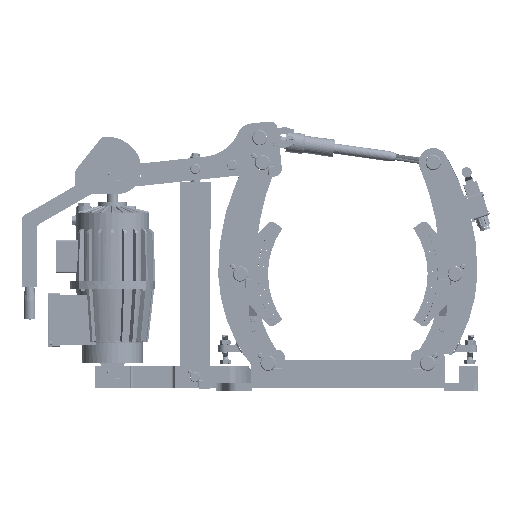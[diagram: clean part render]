
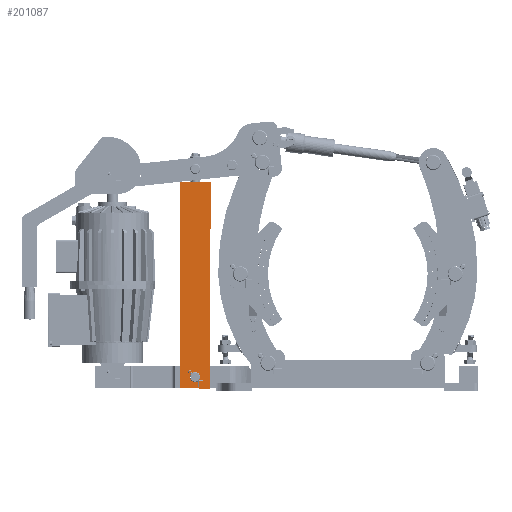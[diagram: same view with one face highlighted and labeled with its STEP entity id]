
A CAD part, left-side view. The second image highlights one B-rep face of the part: STEP entity #201087.
In plain terms, the highlighted planar face has unit normal (-1, 0, 0).
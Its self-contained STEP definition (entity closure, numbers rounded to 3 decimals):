
#200934=DIRECTION('',(0.,-1.,-0.002));
#200935=VECTOR('',#200934,60.);
#200936=CARTESIAN_POINT('',(-90.,588.327,412.052));
#200937=LINE('',#200936,#200935);
#200941=DIRECTION('',(0.,0.002,-1.));
#200942=VECTOR('',#200941,408.);
#200943=CARTESIAN_POINT('',(-90.,528.327,411.947));
#200944=LINE('',#200943,#200942);
#200948=DIRECTION('',(0.,1.,0.002));
#200949=VECTOR('',#200948,60.);
#200950=CARTESIAN_POINT('',(-90.,529.039,3.948));
#200951=LINE('',#200950,#200949);
#200955=DIRECTION('',(0.,-0.002,1.));
#200956=VECTOR('',#200955,408.);
#200957=CARTESIAN_POINT('',(-90.,589.039,4.052));
#200958=LINE('',#200957,#200956);
#200962=CARTESIAN_POINT('',(-90.,569.,26.517));
#200963=CARTESIAN_POINT('',(-90.,568.998,26.149));
#200964=CARTESIAN_POINT('',(-90.,568.96,25.426));
#200965=CARTESIAN_POINT('',(-90.,568.795,24.398));
#200966=CARTESIAN_POINT('',(-90.,568.524,23.392));
#200967=CARTESIAN_POINT('',(-90.,568.15,22.422));
#200968=CARTESIAN_POINT('',(-90.,567.675,21.489));
#200969=CARTESIAN_POINT('',(-90.,567.106,20.613));
#200970=CARTESIAN_POINT('',(-90.,566.448,19.8));
#200971=CARTESIAN_POINT('',(-90.,565.71,19.061));
#200972=CARTESIAN_POINT('',(-90.,564.899,18.402));
#200973=CARTESIAN_POINT('',(-90.,564.024,17.832));
#200974=CARTESIAN_POINT('',(-90.,563.095,17.358));
#200975=CARTESIAN_POINT('',(-90.,562.13,16.984));
#200976=CARTESIAN_POINT('',(-90.,561.13,16.711));
#200977=CARTESIAN_POINT('',(-90.,560.107,16.544));
#200978=CARTESIAN_POINT('',(-90.,559.386,16.503));
#200979=CARTESIAN_POINT('',(-90.,559.018,16.5));
#200984=CARTESIAN_POINT('',(-90.,559.018,16.5));
#200985=CARTESIAN_POINT('',(-90.,558.649,16.502));
#200986=CARTESIAN_POINT('',(-90.,557.926,16.541));
#200987=CARTESIAN_POINT('',(-90.,556.898,16.705));
#200988=CARTESIAN_POINT('',(-90.,555.892,16.977));
#200989=CARTESIAN_POINT('',(-90.,554.922,17.35));
#200990=CARTESIAN_POINT('',(-90.,553.989,17.825));
#200991=CARTESIAN_POINT('',(-90.,553.113,18.394));
#200992=CARTESIAN_POINT('',(-90.,552.3,19.052));
#200993=CARTESIAN_POINT('',(-90.,551.561,19.79));
#200994=CARTESIAN_POINT('',(-90.,550.903,20.601));
#200995=CARTESIAN_POINT('',(-90.,550.333,21.476));
#200996=CARTESIAN_POINT('',(-90.,549.858,22.405));
#200997=CARTESIAN_POINT('',(-90.,549.484,23.37));
#200998=CARTESIAN_POINT('',(-90.,549.211,24.37));
#200999=CARTESIAN_POINT('',(-90.,549.044,25.393));
#201000=CARTESIAN_POINT('',(-90.,549.003,26.114));
#201001=CARTESIAN_POINT('',(-90.,549.,26.483));
#201006=CARTESIAN_POINT('',(-90.,549.,26.483));
#201007=CARTESIAN_POINT('',(-90.,549.002,26.851));
#201008=CARTESIAN_POINT('',(-90.,549.041,27.574));
#201009=CARTESIAN_POINT('',(-90.,549.205,28.602));
#201010=CARTESIAN_POINT('',(-90.,549.477,29.608));
#201011=CARTESIAN_POINT('',(-90.,549.851,30.578));
#201012=CARTESIAN_POINT('',(-90.,550.325,31.511));
#201013=CARTESIAN_POINT('',(-90.,550.894,32.387));
#201014=CARTESIAN_POINT('',(-90.,551.552,33.2));
#201015=CARTESIAN_POINT('',(-90.,552.29,33.939));
#201016=CARTESIAN_POINT('',(-90.,553.102,34.598));
#201017=CARTESIAN_POINT('',(-90.,553.976,35.168));
#201018=CARTESIAN_POINT('',(-90.,554.905,35.642));
#201019=CARTESIAN_POINT('',(-90.,555.87,36.016));
#201020=CARTESIAN_POINT('',(-90.,556.87,36.289));
#201021=CARTESIAN_POINT('',(-90.,557.893,36.456));
#201022=CARTESIAN_POINT('',(-90.,558.614,36.497));
#201023=CARTESIAN_POINT('',(-90.,558.983,36.5));
#201028=CARTESIAN_POINT('',(-90.,558.983,36.5));
#201029=CARTESIAN_POINT('',(-90.,559.352,36.498));
#201030=CARTESIAN_POINT('',(-90.,560.075,36.459));
#201031=CARTESIAN_POINT('',(-90.,561.102,36.295));
#201032=CARTESIAN_POINT('',(-90.,562.108,36.023));
#201033=CARTESIAN_POINT('',(-90.,563.078,35.65));
#201034=CARTESIAN_POINT('',(-90.,564.011,35.175));
#201035=CARTESIAN_POINT('',(-90.,564.888,34.606));
#201036=CARTESIAN_POINT('',(-90.,565.7,33.948));
#201037=CARTESIAN_POINT('',(-90.,566.439,33.21));
#201038=CARTESIAN_POINT('',(-90.,567.098,32.399));
#201039=CARTESIAN_POINT('',(-90.,567.668,31.524));
#201040=CARTESIAN_POINT('',(-90.,568.142,30.595));
#201041=CARTESIAN_POINT('',(-90.,568.516,29.63));
#201042=CARTESIAN_POINT('',(-90.,568.789,28.63));
#201043=CARTESIAN_POINT('',(-90.,568.956,27.607));
#201044=CARTESIAN_POINT('',(-90.,568.997,26.886));
#201045=CARTESIAN_POINT('',(-90.,569.,26.517));
#201050=CARTESIAN_POINT('',(-90.,588.327,412.052));
#201051=CARTESIAN_POINT('',(-90.,528.327,411.947));
#201052=VERTEX_POINT('',#201050);
#201053=VERTEX_POINT('',#201051);
#201054=CARTESIAN_POINT('',(-90.,529.039,3.948));
#201055=VERTEX_POINT('',#201054);
#201056=CARTESIAN_POINT('',(-90.,589.039,4.052));
#201057=VERTEX_POINT('',#201056);
#201058=VERTEX_POINT('',#200962);
#201059=VERTEX_POINT('',#200979);
#201060=VERTEX_POINT('',#201001);
#201061=VERTEX_POINT('',#201023);
#201062=CARTESIAN_POINT('',(-90.,558.683,208.));
#201063=DIRECTION('',(1.,0.,0.));
#201064=DIRECTION('',(0.,0.002,-1.));
#201065=AXIS2_PLACEMENT_3D('',#201062,#201063,#201064);
#201066=PLANE('',#201065);
#201068=ORIENTED_EDGE('',*,*,#201067,.T.);
#201070=ORIENTED_EDGE('',*,*,#201069,.T.);
#201072=ORIENTED_EDGE('',*,*,#201071,.T.);
#201074=ORIENTED_EDGE('',*,*,#201073,.T.);
#201075=EDGE_LOOP('',(#201068,#201070,#201072,#201074));
#201076=FACE_OUTER_BOUND('',#201075,.F.);
#201078=ORIENTED_EDGE('',*,*,#201077,.T.);
#201080=ORIENTED_EDGE('',*,*,#201079,.T.);
#201082=ORIENTED_EDGE('',*,*,#201081,.T.);
#201084=ORIENTED_EDGE('',*,*,#201083,.T.);
#201085=EDGE_LOOP('',(#201078,#201080,#201082,#201084));
#201086=FACE_BOUND('',#201085,.F.);
#201087=ADVANCED_FACE('',(#201076,#201086),#201066,.F.);
#200980=B_SPLINE_CURVE_WITH_KNOTS('',3,(#200962,#200963,#200964,#200965,#200966,
#200967,#200968,#200969,#200970,#200971,#200972,#200973,#200974,#200975,#200976,
#200977,#200978,#200979),.UNSPECIFIED.,.F.,.F.,(4,1,1,1,1,1,1,1,1,1,1,1,1,1,1,
4),(0.,0.067,0.133,0.2,0.267,
0.333,0.4,0.467,0.533,0.6,
0.667,0.733,0.8,0.867,0.933,
1.),.UNSPECIFIED.);
#201002=B_SPLINE_CURVE_WITH_KNOTS('',3,(#200984,#200985,#200986,#200987,#200988,
#200989,#200990,#200991,#200992,#200993,#200994,#200995,#200996,#200997,#200998,
#200999,#201000,#201001),.UNSPECIFIED.,.F.,.F.,(4,1,1,1,1,1,1,1,1,1,1,1,1,1,1,
4),(0.,0.067,0.133,0.2,0.267,
0.333,0.4,0.467,0.533,0.6,
0.667,0.733,0.8,0.867,0.933,
1.),.UNSPECIFIED.);
#201024=B_SPLINE_CURVE_WITH_KNOTS('',3,(#201006,#201007,#201008,#201009,#201010,
#201011,#201012,#201013,#201014,#201015,#201016,#201017,#201018,#201019,#201020,
#201021,#201022,#201023),.UNSPECIFIED.,.F.,.F.,(4,1,1,1,1,1,1,1,1,1,1,1,1,1,1,
4),(0.,0.067,0.133,0.2,0.267,
0.333,0.4,0.467,0.533,0.6,
0.667,0.733,0.8,0.867,0.933,
1.),.UNSPECIFIED.);
#201046=B_SPLINE_CURVE_WITH_KNOTS('',3,(#201028,#201029,#201030,#201031,#201032,
#201033,#201034,#201035,#201036,#201037,#201038,#201039,#201040,#201041,#201042,
#201043,#201044,#201045),.UNSPECIFIED.,.F.,.F.,(4,1,1,1,1,1,1,1,1,1,1,1,1,1,1,
4),(0.,0.067,0.133,0.2,0.267,
0.333,0.4,0.467,0.533,0.6,
0.667,0.733,0.8,0.867,0.933,
1.),.UNSPECIFIED.);
#201067=EDGE_CURVE('',#201052,#201053,#200937,.T.);
#201069=EDGE_CURVE('',#201053,#201055,#200944,.T.);
#201071=EDGE_CURVE('',#201055,#201057,#200951,.T.);
#201073=EDGE_CURVE('',#201057,#201052,#200958,.T.);
#201077=EDGE_CURVE('',#201058,#201059,#200980,.T.);
#201079=EDGE_CURVE('',#201059,#201060,#201002,.T.);
#201081=EDGE_CURVE('',#201060,#201061,#201024,.T.);
#201083=EDGE_CURVE('',#201061,#201058,#201046,.T.);
